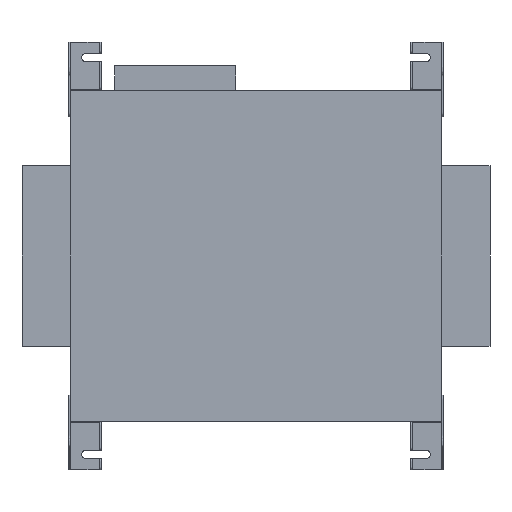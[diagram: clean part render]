
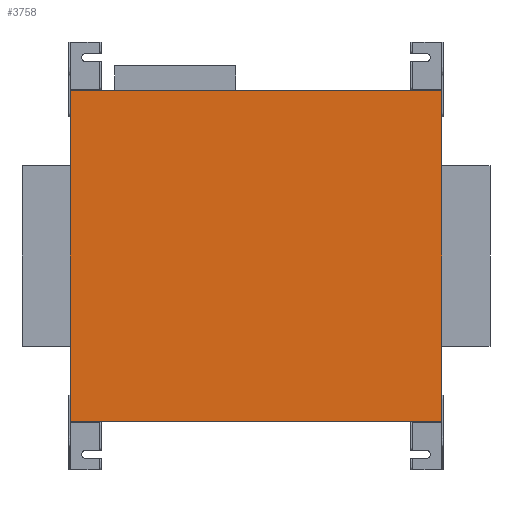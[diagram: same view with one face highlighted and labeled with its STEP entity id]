
A CAD part, front view. The second image highlights one B-rep face of the part: STEP entity #3758.
In plain terms, the highlighted planar face has unit normal (0, -1, 0).
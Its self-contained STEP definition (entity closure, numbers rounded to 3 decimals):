
#413 = VERTEX_POINT ( 'NONE', #4374 ) ;
#469 = CARTESIAN_POINT ( 'NONE',  ( 306., -204.5, -273. ) ) ;
#474 = EDGE_CURVE ( 'NONE', #413, #2035, #3385, .T. ) ;
#528 = DIRECTION ( 'NONE',  ( -1., 0., 0. ) ) ;
#538 = DIRECTION ( 'NONE',  ( 1., 0., 0. ) ) ;
#828 = CARTESIAN_POINT ( 'NONE',  ( -306., -204.5, 273. ) ) ;
#1090 = CARTESIAN_POINT ( 'NONE',  ( -306., -204.5, -273. ) ) ;
#1346 = LINE ( 'NONE', #2283, #3276 ) ;
#1419 = LINE ( 'NONE', #2268, #1928 ) ;
#1551 = EDGE_CURVE ( 'NONE', #2586, #4040, #1740, .T. ) ;
#1667 = EDGE_CURVE ( 'NONE', #4040, #413, #1346, .T. ) ;
#1740 = LINE ( 'NONE', #3136, #5968 ) ;
#1928 = VECTOR ( 'NONE', #538, 1000. ) ;
#2035 = VERTEX_POINT ( 'NONE', #828 ) ;
#2052 = EDGE_LOOP ( 'NONE', ( #4948, #3252, #3817, #3834 ) ) ;
#2236 = AXIS2_PLACEMENT_3D ( 'NONE', #3450, #5741, #2546 ) ;
#2268 = CARTESIAN_POINT ( 'NONE',  ( -306., -204.5, 273. ) ) ;
#2283 = CARTESIAN_POINT ( 'NONE',  ( -306., -204.5, -273. ) ) ;
#2546 = DIRECTION ( 'NONE',  ( 0., 0., 1. ) ) ;
#2586 = VERTEX_POINT ( 'NONE', #2941 ) ;
#2941 = CARTESIAN_POINT ( 'NONE',  ( 306., -204.5, 273. ) ) ;
#3136 = CARTESIAN_POINT ( 'NONE',  ( 306., -204.5, -273. ) ) ;
#3252 = ORIENTED_EDGE ( 'NONE', *, *, #1667, .F. ) ;
#3276 = VECTOR ( 'NONE', #528, 1000. ) ;
#3385 = LINE ( 'NONE', #1090, #5477 ) ;
#3419 = DIRECTION ( 'NONE',  ( 0., 0., 1. ) ) ;
#3450 = CARTESIAN_POINT ( 'NONE',  ( 0., -204.5, 0. ) ) ;
#3651 = EDGE_CURVE ( 'NONE', #2035, #2586, #1419, .T. ) ;
#3758 = ADVANCED_FACE ( 'NONE', ( #5279 ), #4311, .F. ) ;
#3817 = ORIENTED_EDGE ( 'NONE', *, *, #1551, .F. ) ;
#3834 = ORIENTED_EDGE ( 'NONE', *, *, #3651, .F. ) ;
#4040 = VERTEX_POINT ( 'NONE', #469 ) ;
#4145 = DIRECTION ( 'NONE',  ( 0., 0., -1. ) ) ;
#4311 = PLANE ( 'NONE',  #2236 ) ;
#4374 = CARTESIAN_POINT ( 'NONE',  ( -306., -204.5, -273. ) ) ;
#4948 = ORIENTED_EDGE ( 'NONE', *, *, #474, .F. ) ;
#5279 = FACE_OUTER_BOUND ( 'NONE', #2052, .T. ) ;
#5477 = VECTOR ( 'NONE', #3419, 1000. ) ;
#5741 = DIRECTION ( 'NONE',  ( 0., 1., 0. ) ) ;
#5968 = VECTOR ( 'NONE', #4145, 1000. ) ;
